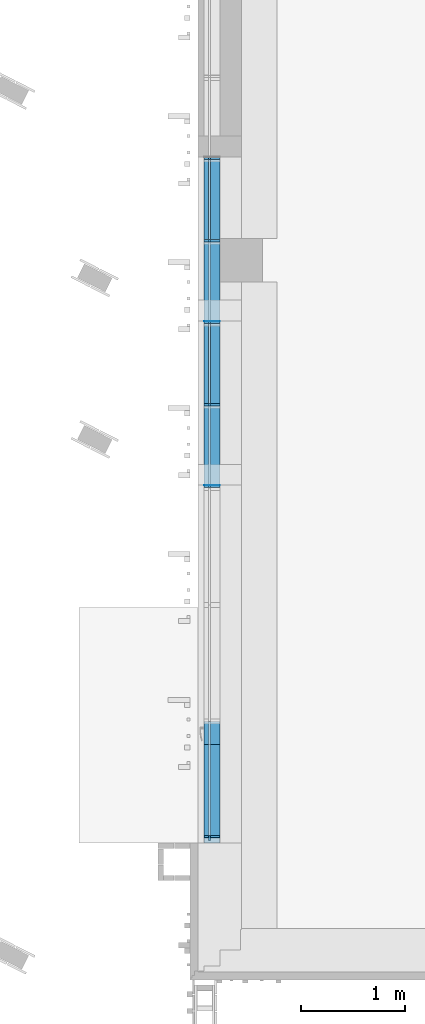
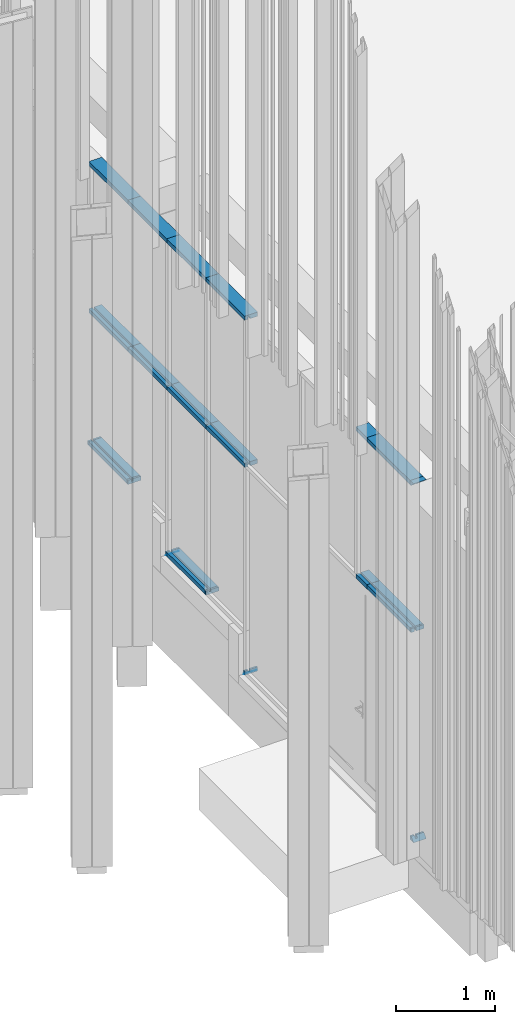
# One storey, part 59 of 390: 24 discrete accessories, 1 element without a shape of its own.
"""IFC2X3 building model written with IfcOpenShell, lengths in millimetres."""

import ifcopenshell
import ifcopenshell.guid

model = None  # the IFC model being written
_history = None  # IfcOwnerHistory: only IFC2X3 demands one
_inside = {}  # id of a spatial element -> (the spatial element, [elements in it])
_under = {}  # id of a project, library or spatial element -> (it, [spatial elements below it])
_declared = {}  # id of a project -> (the project, [libraries it declares])
_typed = {}  # id of a type object -> (the type object, [elements of that type])
_made_of = {}  # id of a material, layer set ... -> (it, [elements and type objects made of it])


def new_model(schema):
    """Start an empty IFC model of exactly this schema.

    Asked for "IFC4X3", IfcOpenShell would pick the latest addendum, in which some entities
    have other attributes; the version numbers below select the first issue.
    IFC2X3 requires an IfcOwnerHistory on every rooted entity: one is made here for all.
    """
    global model, _history
    if schema == "IFC4X3":
        model = ifcopenshell.file(schema_version=(4, 3, 0, 0))
    else:
        model = ifcopenshell.file(schema=schema)
    _inside.clear()
    _under.clear()
    _declared.clear()
    _typed.clear()
    _made_of.clear()
    _history = None
    if model.schema == "IFC2X3":
        org = make("IfcOrganization", Name="unknown")
        user = make(
            "IfcPersonAndOrganization",
            ThePerson=make("IfcPerson", FamilyName="unknown"),
            TheOrganization=org,
        )
        app = make(
            "IfcApplication",
            ApplicationDeveloper=org,
            Version="unknown",
            ApplicationFullName="unknown",
            ApplicationIdentifier="unknown",
        )
        _history = make(
            "IfcOwnerHistory",
            OwningUser=user,
            OwningApplication=app,
            ChangeAction="ADDED",
            CreationDate=0,
        )
    return model


def make(cls, **values):
    """One entity of the class cls with the attributes given. An attribute that is None is left unset."""
    return model.create_entity(
        cls, **{name: value for name, value in values.items() if value is not None}
    )


def entity(cls, *values):
    """Any entity or typed value of the class cls, its attributes in the order of the schema. None: left unset."""
    e = model.create_entity(cls)
    for i, value in enumerate(values):
        if value is not None:
            e[i] = value
    return e


def rooted(cls, **values):
    """An entity with a GlobalId (a new one), such as an element, a storey or a relation."""
    return make(cls, GlobalId=ifcopenshell.guid.new(), OwnerHistory=_history, **values)


def si_unit(unit_type, name, prefix=None):
    """IfcSIUnit, for example si_unit("LENGTHUNIT", "METRE", prefix="MILLI")."""
    return make("IfcSIUnit", UnitType=unit_type, Prefix=prefix, Name=name)


def converted_unit(unit_type, name, factor, base, dimensions=None, offset=None):
    """IfcConversionBasedUnit, such as the inch: factor (a typed value) times the base unit."""
    return make(
        "IfcConversionBasedUnit"
        if offset is None
        else "IfcConversionBasedUnitWithOffset",
        ConversionOffset=offset,
        Dimensions=None
        if dimensions is None
        else entity("IfcDimensionalExponents", *dimensions),
        UnitType=unit_type,
        Name=name,
        ConversionFactor=make(
            "IfcMeasureWithUnit", ValueComponent=factor, UnitComponent=base
        ),
    )


def derived_unit(unit_type, elements):
    """IfcDerivedUnit: a product of units, each with its exponent."""
    return make(
        "IfcDerivedUnit",
        Elements=[
            make("IfcDerivedUnitElement", Unit=unit, Exponent=power)
            for unit, power in elements
        ],
        UnitType=unit_type,
    )


def money_unit(currency):
    """IfcMonetaryUnit."""
    return make("IfcMonetaryUnit", Currency=currency)


def assignment(units):
    """IfcUnitAssignment: the units of a project."""
    return None if units is None else make("IfcUnitAssignment", Units=units)


def point(xyz):
    """IfcCartesianPoint."""
    return None if xyz is None else make("IfcCartesianPoint", Coordinates=xyz)


def direction(xyz):
    """IfcDirection."""
    return None if xyz is None else make("IfcDirection", DirectionRatios=xyz)


def frame(location, z_axis=None, x_axis=None):
    """IfcAxis2Placement3D, a coordinate frame: its origin and axes. An axis left out is left unset."""
    return make(
        "IfcAxis2Placement3D",
        Location=point(location),
        Axis=direction(z_axis),
        RefDirection=direction(x_axis),
    )


def origin_with_axes():
    """The frame at (0, 0, 0) with the z axis (0, 0, 1) and the x axis (1, 0, 0) written out."""
    return frame((0.0, 0.0, 0.0), z_axis=(0.0, 0.0, 1.0), x_axis=(1.0, 0.0, 0.0))


def place(relative_to, where):
    """IfcLocalPlacement: puts the frame where relative to a parent placement (None: the world)."""
    return make(
        "IfcLocalPlacement", PlacementRelTo=relative_to, RelativePlacement=where
    )


def context(
    kind, dimensions, precision=None, world=None, true_north=None, identifier=None
):
    """IfcGeometricRepresentationContext, for example the 3D "Model" context."""
    return make(
        "IfcGeometricRepresentationContext",
        ContextIdentifier=identifier,
        ContextType=kind,
        CoordinateSpaceDimension=dimensions,
        Precision=precision,
        WorldCoordinateSystem=world,
        TrueNorth=true_north,
    )


def subcontext(parent, identifier, kind, view, scale=None):
    """IfcGeometricRepresentationSubContext, for example "Body" below "Model"."""
    return make(
        "IfcGeometricRepresentationSubContext",
        ContextIdentifier=identifier,
        ContextType=kind,
        ParentContext=parent,
        TargetScale=scale,
        TargetView=view,
    )


def project(units=None, contexts=None):
    """IfcProject with its units and contexts."""
    return rooted(
        "IfcProject",
        Name="project",
        RepresentationContexts=contexts,
        UnitsInContext=assignment(units),
    )


def spatial(cls, under=None, at=None, **own):
    """A site, building, storey or space (cls), placed at a placement, below another one or the project."""
    s = rooted(cls, ObjectPlacement=at, **own)
    if under is not None:
        _under.setdefault(under.id(), (under, []))[1].append(s)
    return s


def polyline(points):
    """IfcPolyline through the points."""
    return make("IfcPolyline", Points=[point(p) for p in points])


def outline(outer, holes=None, kind="AREA"):
    """IfcArbitraryClosedProfileDef: a profile drawn as a closed curve; with holes, ...WithVoids."""
    if holes is None:
        return make("IfcArbitraryClosedProfileDef", ProfileType=kind, OuterCurve=outer)
    return make(
        "IfcArbitraryProfileDefWithVoids",
        ProfileType=kind,
        OuterCurve=outer,
        InnerCurves=holes,
    )


def extrude(swept, where, along, depth):
    """IfcExtrudedAreaSolid: the profile swept, set in the frame where, extruded along a direction by depth."""
    return make(
        "IfcExtrudedAreaSolid",
        SweptArea=swept,
        Position=where,
        ExtrudedDirection=direction(along),
        Depth=depth,
    )


def clip(a, b, op="DIFFERENCE"):
    """IfcBooleanClippingResult: the solid a cut by the half space b."""
    return make(
        "IfcBooleanClippingResult", Operator=op, FirstOperand=a, SecondOperand=b
    )


def halfspace(plane, agree):
    """IfcHalfSpaceSolid: all space on one side of the plane z = 0 of the frame plane."""
    return make(
        "IfcHalfSpaceSolid",
        BaseSurface=make("IfcPlane", Position=plane),
        AgreementFlag=agree,
    )


def shape(context_of_items, identifier, shape_type, items):
    """IfcShapeRepresentation: the items that make up one representation, for example the "Body"."""
    return make(
        "IfcShapeRepresentation",
        ContextOfItems=context_of_items,
        RepresentationIdentifier=identifier,
        RepresentationType=shape_type,
        Items=items,
    )


def material(Name=None, Category=None):
    """IfcMaterial."""
    return make("IfcMaterial", Name=Name, Category=Category)


def material_list(materials):
    """IfcMaterialList."""
    return make("IfcMaterialList", Materials=materials)


def made_of(thing, what):
    """Note that an element or type object is made of a material, layer set ...; save() writes the relation."""
    if what is not None:
        _made_of.setdefault(what.id(), (what, []))[1].append(thing)
    return thing


def type_object(cls, material=None, **own):
    """A type object (cls), such as IfcWallType, which elements share."""
    return made_of(rooted(cls, **own), material)


def element(
    cls,
    number,
    at=None,
    inside=None,
    cuts=None,
    type_object=None,
    material=None,
    context=None,
    identifier="Body",
    shape_type=None,
    held_by="IfcProductDefinitionShape",
    body=None,
    shapes=None,
    **own,
):
    """One element of the class cls, such as IfcWall. Its Tag is "e" and its number.

    at: its placement. inside: the storey or other place that contains it. cuts: it is an
    opening in that element (IfcRelVoidsElement). A single representation is given by context,
    identifier, shape_type and body (its items); several are given by shapes. held_by: the class
    of the entity that holds the representations. save() writes the other relations.
    """
    e = rooted(cls, Tag="e%d" % number, ObjectPlacement=at, **own)
    if body is not None:
        shapes = [shape(context, identifier, shape_type, body)]
    if shapes is not None:
        e.Representation = make(held_by, Representations=shapes)
    if inside is not None:
        _inside.setdefault(inside.id(), (inside, []))[1].append(e)
    if cuts is not None:
        rooted(
            "IfcRelVoidsElement", RelatingBuildingElement=cuts, RelatedOpeningElement=e
        )
    if type_object is not None:
        _typed.setdefault(type_object.id(), (type_object, []))[1].append(e)
    return made_of(e, material)


def aggregate(whole, parts):
    """IfcRelAggregates: a whole, such as a stair, and the parts it consists of."""
    return rooted("IfcRelAggregates", RelatingObject=whole, RelatedObjects=parts)


def save(model, path):
    """Write the relations noted so far, then the file.

    IfcRelAggregates (storeys below a building ...), IfcRelContainedInSpatialStructure (elements
    in a storey), IfcRelDefinesByType, IfcRelAssociatesMaterial and IfcRelDeclares: one each for
    every whole, place, type object, material and project.
    """
    for whole, parts in _under.values():
        aggregate(whole, parts)
    for where, things in _inside.values():
        rooted(
            "IfcRelContainedInSpatialStructure",
            RelatedElements=things,
            RelatingStructure=where,
        )
    for kind, things in _typed.values():
        rooted("IfcRelDefinesByType", RelatedObjects=things, RelatingType=kind)
    for what, things in _made_of.values():
        rooted("IfcRelAssociatesMaterial", RelatedObjects=things, RelatingMaterial=what)
    for by, libraries in _declared.values():
        rooted("IfcRelDeclares", RelatingContext=by, RelatedDefinitions=libraries)
    model.write(path)


model = new_model("IFC2X3")

# Units and contexts
model_context = context("Model", 3, precision=1e-05, world=origin_with_axes(), true_north=direction((0.0, 1.0)))
body_context = subcontext(model_context, "Body", "Model", "MODEL_VIEW")
ifc_project = project(units=[si_unit("LENGTHUNIT", "METRE", prefix="MILLI"), si_unit("AREAUNIT", "SQUARE_METRE"), si_unit("VOLUMEUNIT", "CUBIC_METRE"), converted_unit("PLANEANGLEUNIT", "DEGREE", entity("IfcPlaneAngleMeasure", 0.0174532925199), si_unit("PLANEANGLEUNIT", "RADIAN"), dimensions=[0, 0, 0, 0, 0, 0, 0]), si_unit("SOLIDANGLEUNIT", "STERADIAN"), money_unit("EUR"), converted_unit("TIMEUNIT", "Year", entity("IfcTimeMeasure", 31556926.0), si_unit("TIMEUNIT", "SECOND"), dimensions=[0, 0, 1, 0, 0, 0, 0]), si_unit("MASSUNIT", "GRAM", prefix="KILO"), si_unit("THERMODYNAMICTEMPERATUREUNIT", "DEGREE_CELSIUS"), si_unit("LUMINOUSINTENSITYUNIT", "LUMEN"), si_unit("ENERGYUNIT", "JOULE", prefix="MEGA"), derived_unit("THERMALCONDUCTANCEUNIT", [(si_unit("POWERUNIT", "WATT"), 1), (si_unit("LENGTHUNIT", "METRE"), -1), (si_unit("THERMODYNAMICTEMPERATUREUNIT", "KELVIN"), -1)]), derived_unit("SPECIFICHEATCAPACITYUNIT", [(si_unit("ENERGYUNIT", "JOULE"), 1), (si_unit("MASSUNIT", "GRAM", prefix="KILO"), -1), (si_unit("THERMODYNAMICTEMPERATUREUNIT", "KELVIN"), -1)]), derived_unit("MASSDENSITYUNIT", [(si_unit("MASSUNIT", "GRAM", prefix="KILO"), 1), (si_unit("VOLUMEUNIT", "CUBIC_METRE"), -1)])], contexts=[model_context])

# Site, building, storey
site_placement = place(None, origin_with_axes())
site = spatial("IfcSite", under=ifc_project, at=site_placement, Name="Site", CompositionType="ELEMENT")
building_placement = place(site_placement, origin_with_axes())
building = spatial("IfcBuilding", under=site, at=building_placement, Name="Building", CompositionType="ELEMENT")
storey_placement = place(building_placement, origin_with_axes())
storey = spatial("IfcBuildingStorey", under=building, at=storey_placement, Name="1 korrus", CompositionType="ELEMENT", Elevation=0.0)

# Curtain wall, discrete accessories
curtain_wall_type = type_object("IfcCurtainWallType", Name="KLF-14", PredefinedType="NOTDEFINED")
curtain_wall_placement = place(storey_placement, frame((122599.999993, 59672.5295083, -0.000201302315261), z_axis=(0.0, 0.0, 1.0), x_axis=(1.0, 0.0, 0.0)))
curtain_wall = element("IfcCurtainWall", 1, at=curtain_wall_placement, inside=storey, type_object=curtain_wall_type, Name="Klaasfassaad")
ifc_material = material(Name="Aluminium MUST")
ifc_material_list_1 = material_list([ifc_material, ifc_material, ifc_material])
discrete_accessory_type = type_object("IfcDiscreteAccessoryType", Name="50 x 150")
discrete_accessory_1_placement = place(curtain_wall_placement, frame((1.2465193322e-06, -7324.5295103, 4424.99986231), z_axis=(1.7016819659e-10, -1.0, 0.0), x_axis=(0.0, 0.0, -1.0)))
discrete_accessory_1 = element("IfcDiscreteAccessory", 2, at=discrete_accessory_1_placement, type_object=discrete_accessory_type, material=ifc_material_list_1, Name="KLF-14 profiil", context=body_context, shape_type="SweptSolid", body=[
    extrude(outline(polyline([(-9.99999986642, 25.0), (-9.99999986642, 0.0), (10.0000001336, 0.0), (10.0000001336, 25.0), (-9.99999986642, 25.0)])), frame((0.0, 0.0, -1.71240799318e-09), z_axis=(0.0, 0.0, 1.0), x_axis=(0.0, -1.0, 0.0)), (0.0, 0.0, 1.0), 785.000000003),
    extrude(outline(polyline([(-99.9999998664, 50.0), (-99.9999998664, 0.0), (-9.99999986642, 0.0), (-9.99999986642, 50.0), (-99.9999998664, 50.0)])), frame((0.0, 0.0, 1.69819713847e-09), z_axis=(0.0, 0.0, 1.0), x_axis=(0.0, -1.0, 0.0)), (0.0, 0.0, 1.0), 785.000000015),
    extrude(outline(polyline([(50.0000001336, 0.0), (50.0000001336, 50.0), (10.0000001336, 50.0), (10.0000001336, 0.0), (50.0000001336, 0.0)])), frame((0.0, 0.0, -8.51940740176e-09), z_axis=(0.0, 0.0, 1.0), x_axis=(0.0, -1.0, 0.0)), (0.0, 0.0, 1.0), 785.000000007),
])
discrete_accessory_2_placement = place(curtain_wall_placement, frame((1.11207043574e-06, -6534.5295103, 4424.99986231), z_axis=(1.70188476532e-10, -1.0, 0.0), x_axis=(0.0, 0.0, -1.0)))
discrete_accessory_2 = element("IfcDiscreteAccessory", 3, at=discrete_accessory_2_placement, type_object=discrete_accessory_type, material=ifc_material_list_1, Name="KLF-14 profiil", context=body_context, shape_type="SweptSolid", body=[
    extrude(outline(polyline([(-9.99999986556, 25.0), (-9.99999986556, 0.0), (10.0000001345, 0.0), (10.0000001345, 25.0), (-9.99999986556, 25.0)])), frame((0.0, 0.0, -1.70530256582e-09), z_axis=(0.0, 0.0, 1.0), x_axis=(0.0, -1.0, 0.0)), (0.0, 0.0, 1.0), 790.000000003),
    extrude(outline(polyline([(-99.9999998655, 50.0), (-99.9999998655, 0.0), (-9.99999986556, 0.0), (-9.99999986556, 50.0), (-99.9999998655, 50.0)])), frame((0.0, 0.0, 1.69109171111e-09), z_axis=(0.0, 0.0, 1.0), x_axis=(0.0, -1.0, 0.0)), (0.0, 0.0, 1.0), 790.000000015),
    extrude(outline(polyline([(50.0000001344, 0.0), (50.0000001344, 50.0), (10.0000001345, 50.0), (10.0000001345, 0.0), (50.0000001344, 0.0)])), frame((0.0, 0.0, -8.51230197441e-09), z_axis=(0.0, 0.0, 1.0), x_axis=(0.0, -1.0, 0.0)), (0.0, 0.0, 1.0), 790.000000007),
])
discrete_accessory_3_placement = place(curtain_wall_placement, frame((1.51455026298e-06, -8899.5295103, 4424.99986231), z_axis=(1.70186299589e-10, -1.0, 0.0), x_axis=(0.0, 0.0, -1.0)))
discrete_accessory_3 = element("IfcDiscreteAccessory", 4, at=discrete_accessory_3_placement, type_object=discrete_accessory_type, material=ifc_material_list_1, Name="KLF-14 profiil", context=body_context, shape_type="SweptSolid", body=[
    extrude(outline(polyline([(-9.99999986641, 25.0), (-9.99999986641, 0.0), (10.0000001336, 0.0), (10.0000001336, 25.0), (-9.99999986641, 25.0)])), frame((0.0, 0.0, -1.69109171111e-09), z_axis=(0.0, 0.0, 1.0), x_axis=(0.0, -1.0, 0.0)), (0.0, 0.0, 1.0), 785.000000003),
    extrude(outline(polyline([(-99.9999998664, 50.0), (-99.9999998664, 0.0), (-9.99999986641, 0.0), (-9.99999986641, 50.0), (-99.9999998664, 50.0)])), frame((0.0, 0.0, 1.70530256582e-09), z_axis=(0.0, 0.0, 1.0), x_axis=(0.0, -1.0, 0.0)), (0.0, 0.0, 1.0), 785.000000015),
    extrude(outline(polyline([(50.0000001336, 0.0), (50.0000001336, 50.0), (10.0000001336, 50.0), (10.0000001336, 0.0), (50.0000001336, 0.0)])), frame((0.0, 0.0, -8.49809111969e-09), z_axis=(0.0, 0.0, 1.0), x_axis=(0.0, -1.0, 0.0)), (0.0, 0.0, 1.0), 785.000000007),
])
discrete_accessory_4_placement = place(curtain_wall_placement, frame((1.38010136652e-06, -8109.5295103, 4424.99986231), z_axis=(1.70188476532e-10, -1.0, 0.0), x_axis=(0.0, 0.0, -1.0)))
discrete_accessory_4 = element("IfcDiscreteAccessory", 5, at=discrete_accessory_4_placement, type_object=discrete_accessory_type, material=ifc_material_list_1, Name="KLF-14 profiil", context=body_context, shape_type="SweptSolid", body=[
    extrude(outline(polyline([(-9.99999986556, 25.0), (-9.99999986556, 0.0), (10.0000001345, 0.0), (10.0000001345, 25.0), (-9.99999986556, 25.0)])), frame((0.0, 0.0, -1.70530256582e-09), z_axis=(0.0, 0.0, 1.0), x_axis=(0.0, -1.0, 0.0)), (0.0, 0.0, 1.0), 790.000000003),
    extrude(outline(polyline([(-99.9999998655, 50.0), (-99.9999998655, 0.0), (-9.99999986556, 0.0), (-9.99999986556, 50.0), (-99.9999998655, 50.0)])), frame((0.0, 0.0, 1.69109171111e-09), z_axis=(0.0, 0.0, 1.0), x_axis=(0.0, -1.0, 0.0)), (0.0, 0.0, 1.0), 790.000000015),
    extrude(outline(polyline([(50.0000001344, 0.0), (50.0000001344, 50.0), (10.0000001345, 50.0), (10.0000001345, 0.0), (50.0000001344, 0.0)])), frame((0.0, 0.0, -8.51230197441e-09), z_axis=(0.0, 0.0, 1.0), x_axis=(0.0, -1.0, 0.0)), (0.0, 0.0, 1.0), 790.000000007),
])
discrete_accessory_5_placement = place(curtain_wall_placement, frame((1.5106849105e-06, -8876.81727382, 510.000201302), z_axis=(-1.70188487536e-10, 1.0, 0.0), x_axis=(0.0, 0.0, 1.0)))
discrete_accessory_5 = element("IfcDiscreteAccessory", 6, at=discrete_accessory_5_placement, type_object=discrete_accessory_type, material=ifc_material_list_1, Name="KLF-14 profiil", context=body_context, shape_type="SweptSolid", body=[
    extrude(outline(polyline([(10.0000001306, -25.0), (10.0000001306, 0.0), (-9.99999986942, 0.0), (-9.99999986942, -25.0), (10.0000001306, -25.0)])), frame((0.0, 0.0, -7.69751693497e-05), z_axis=(0.0, 0.0, 1.0), x_axis=(0.0, 1.0, 0.0)), (0.0, 0.0, 1.0), 767.287840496),
    extrude(outline(polyline([(100.000000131, -50.0), (100.000000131, 0.0), (10.0000001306, 0.0), (10.0000001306, -50.0), (100.000000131, -50.0)])), frame((0.0, 0.0, -7.69904957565e-05), z_axis=(0.0, 0.0, 1.0), x_axis=(0.0, 1.0, 0.0)), (0.0, 0.0, 1.0), 767.287840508),
    extrude(outline(polyline([(-49.9999998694, 0.0), (-49.9999998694, -50.0), (-9.99999986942, -50.0), (-9.99999986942, 0.0), (-49.9999998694, 0.0)])), frame((0.0, 0.0, -7.69717729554e-05), z_axis=(0.0, 0.0, 1.0), x_axis=(0.0, 1.0, 0.0)), (0.0, 0.0, 1.0), 767.287840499),
])
ifc_material_list_2 = material_list([ifc_material, ifc_material])
discrete_accessory_6_placement = place(curtain_wall_placement, frame((1.64814650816e-06, -9684.5295103, 2585.00012874), z_axis=(-1.70186299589e-10, 1.0, 0.0), x_axis=(0.0, 0.0, 1.0)))
discrete_accessory_6 = element("IfcDiscreteAccessory", 7, at=discrete_accessory_6_placement, type_object=discrete_accessory_type, material=ifc_material_list_2, Name="KLF-14 profiil", context=body_context, shape_type="SweptSolid", body=[
    extrude(outline(polyline([(100.000000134, -25.0), (100.000000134, 25.0), (10.0000001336, 25.0), (10.0000001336, -25.0), (100.000000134, -25.0)])), frame((0.0, 0.0, -1.70174985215e-08), z_axis=(0.0, 0.0, 1.0), x_axis=(0.0, 1.0, 0.0)), (0.0, 0.0, 1.0), 785.000000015),
    extrude(outline(polyline([(-49.9999998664, 25.0), (-49.9999998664, -25.0), (-9.99999986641, -25.0), (-9.99999986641, 25.0), (-49.9999998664, 25.0)])), frame((0.0, 0.0, 1.69109171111e-09), z_axis=(0.0, 0.0, 1.0), x_axis=(0.0, 1.0, 0.0)), (0.0, 0.0, 1.0), 785.000000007),
])
discrete_accessory_7_placement = place(curtain_wall_placement, frame((1.51455026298e-06, -8899.5295103, 2585.00012874), z_axis=(-1.70188476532e-10, 1.0, 0.0), x_axis=(0.0, 0.0, 1.0)))
discrete_accessory_7 = element("IfcDiscreteAccessory", 8, at=discrete_accessory_7_placement, type_object=discrete_accessory_type, material=ifc_material_list_2, Name="KLF-14 profiil", context=body_context, shape_type="SweptSolid", body=[
    extrude(outline(polyline([(100.000000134, -25.0), (100.000000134, 25.0), (10.0000001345, 25.0), (10.0000001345, -25.0), (100.000000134, -25.0)])), frame((0.0, 0.0, -1.70174985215e-08), z_axis=(0.0, 0.0, 1.0), x_axis=(0.0, 1.0, 0.0)), (0.0, 0.0, 1.0), 790.000000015),
    extrude(outline(polyline([(-49.9999998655, 25.0), (-49.9999998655, -25.0), (-9.99999986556, -25.0), (-9.99999986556, 25.0), (-49.9999998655, 25.0)])), frame((0.0, 0.0, 1.70530256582e-09), z_axis=(0.0, 0.0, 1.0), x_axis=(0.0, 1.0, 0.0)), (0.0, 0.0, 1.0), 790.000000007),
])
discrete_accessory_8_placement = place(curtain_wall_placement, frame((1.38010136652e-06, -8109.5295103, 2585.00012874), z_axis=(-1.7016819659e-10, 1.0, 0.0), x_axis=(0.0, 0.0, 1.0)))
discrete_accessory_8 = element("IfcDiscreteAccessory", 9, at=discrete_accessory_8_placement, type_object=discrete_accessory_type, material=ifc_material_list_2, Name="KLF-14 profiil", context=body_context, shape_type="SweptSolid", body=[
    extrude(outline(polyline([(100.000000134, -25.0), (100.000000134, 25.0), (10.0000001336, 25.0), (10.0000001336, -25.0), (100.000000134, -25.0)])), frame((0.0, 0.0, -1.70174985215e-08), z_axis=(0.0, 0.0, 1.0), x_axis=(0.0, 1.0, 0.0)), (0.0, 0.0, 1.0), 785.000000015),
    extrude(outline(polyline([(-49.9999998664, 25.0), (-49.9999998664, -25.0), (-9.99999986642, -25.0), (-9.99999986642, 25.0), (-49.9999998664, 25.0)])), frame((0.0, 0.0, 1.71240799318e-09), z_axis=(0.0, 0.0, 1.0), x_axis=(0.0, 1.0, 0.0)), (0.0, 0.0, 1.0), 785.000000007),
])
discrete_accessory_9_placement = place(curtain_wall_placement, frame((1.2465193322e-06, -7324.5295103, 2585.00012874), z_axis=(-1.70188476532e-10, 1.0, 0.0), x_axis=(0.0, 0.0, 1.0)))
discrete_accessory_9 = element("IfcDiscreteAccessory", 10, at=discrete_accessory_9_placement, type_object=discrete_accessory_type, material=ifc_material_list_2, Name="KLF-14 profiil", context=body_context, shape_type="SweptSolid", body=[
    extrude(outline(polyline([(100.000000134, -25.0), (100.000000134, 25.0), (10.0000001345, 25.0), (10.0000001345, -25.0), (100.000000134, -25.0)])), frame((0.0, 0.0, -1.70174985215e-08), z_axis=(0.0, 0.0, 1.0), x_axis=(0.0, 1.0, 0.0)), (0.0, 0.0, 1.0), 790.000000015),
    extrude(outline(polyline([(-49.9999998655, 25.0), (-49.9999998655, -25.0), (-9.99999986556, -25.0), (-9.99999986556, 25.0), (-49.9999998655, 25.0)])), frame((0.0, 0.0, 1.70530256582e-09), z_axis=(0.0, 0.0, 1.0), x_axis=(0.0, 1.0, 0.0)), (0.0, 0.0, 1.0), 790.000000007),
])
discrete_accessory_10_placement = place(curtain_wall_placement, frame((1.24265397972e-06, -7301.81729221, 920.000173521), z_axis=(-1.70188483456e-10, 1.0, 0.0), x_axis=(0.0, 0.0, 1.0)))
discrete_accessory_10 = element("IfcDiscreteAccessory", 11, at=discrete_accessory_10_placement, type_object=discrete_accessory_type, material=ifc_material_list_1, Name="KLF-14 profiil", context=body_context, shape_type="SweptSolid", body=[
    extrude(outline(polyline([(10.0000001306, -25.0), (10.0000001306, 0.0), (-9.99999986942, 0.0), (-9.99999986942, -25.0), (10.0000001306, -25.0)])), frame((0.0, 0.0, -3.0219617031e-05), z_axis=(0.0, 0.0, 1.0), x_axis=(0.0, 1.0, 0.0)), (0.0, 0.0, 1.0), 767.287812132),
    extrude(outline(polyline([(100.000000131, -50.0), (100.000000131, 0.0), (10.0000001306, 0.0), (10.0000001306, -50.0), (100.000000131, -50.0)])), frame((0.0, 0.0, -3.02349434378e-05), z_axis=(0.0, 0.0, 1.0), x_axis=(0.0, 1.0, 0.0)), (0.0, 0.0, 1.0), 767.287812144),
    extrude(outline(polyline([(-49.9999998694, 0.0), (-49.9999998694, -50.0), (-9.99999986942, -50.0), (-9.99999986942, 0.0), (-49.9999998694, 0.0)])), frame((0.0, 0.0, -3.02162206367e-05), z_axis=(0.0, 0.0, 1.0), x_axis=(0.0, 1.0, 0.0)), (0.0, 0.0, 1.0), 767.287812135),
])
discrete_accessory_11_placement = place(curtain_wall_placement, frame((1.11207043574e-06, -6534.5295103, 920.000173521), z_axis=(-1.70011504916e-10, 1.0, 0.0), x_axis=(0.0, 0.0, 1.0)))
discrete_accessory_11 = element("IfcDiscreteAccessory", 12, at=discrete_accessory_11_placement, type_object=discrete_accessory_type, material=ifc_material_list_1, Name="KLF-14 profiil", context=body_context, shape_type="SweptSolid", body=[
    extrude(outline(polyline([(10.0000000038, -25.0), (10.0000000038, 0.0), (-9.99999999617, 0.0), (-9.99999999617, -25.0), (10.0000000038, -25.0)])), frame((0.0, 0.0, -1.7266188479e-09), z_axis=(0.0, 0.0, 1.0), x_axis=(0.0, 1.0, 0.0)), (0.0, 0.0, 1.0), 22.5689036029),
    extrude(outline(polyline([(100.000000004, -50.0), (100.000000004, 0.0), (10.0000000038, 0.0), (10.0000000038, -50.0), (100.000000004, -50.0)])), frame((0.0, 0.0, -1.70174985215e-08), z_axis=(0.0, 0.0, 1.0), x_axis=(0.0, 1.0, 0.0)), (0.0, 0.0, 1.0), 22.5689036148),
    extrude(outline(polyline([(-49.9999999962, 0.0), (-49.9999999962, -50.0), (-9.99999999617, -50.0), (-9.99999999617, 0.0), (-49.9999999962, 0.0)])), frame((0.0, 0.0, 1.68398628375e-09), z_axis=(0.0, 0.0, 1.0), x_axis=(0.0, 1.0, 0.0)), (0.0, 0.0, 1.0), 22.5689036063),
])
discrete_accessory_12_placement = place(curtain_wall_placement, frame((1.2465193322e-06, -7324.5295103, 920.000200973), z_axis=(-1.70188242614e-10, 0.999999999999, -1.20871703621e-06), x_axis=(0.0, 1.20871703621e-06, 0.999999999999)))
discrete_accessory_12 = element("IfcDiscreteAccessory", 13, at=discrete_accessory_12_placement, type_object=discrete_accessory_type, material=ifc_material_list_1, Name="KLF-14 profiil", context=body_context, shape_type="SweptSolid", body=[
    extrude(outline(polyline([(10.0000000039, -25.0000274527), (10.0000000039, -2.74526814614e-05), (-9.99999999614, -2.74526814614e-05), (-9.99999999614, -25.0000274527), (10.0000000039, -25.0000274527)])), frame((0.0, 0.0, -6.06827583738e-05), z_axis=(0.0, 0.0, 1.0), x_axis=(0.0, 1.0, 0.0)), (0.0, 0.0, 1.0), 22.712308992),
    extrude(outline(polyline([(100.000000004, -50.0000274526), (100.000000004, -2.74526814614e-05), (10.0000000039, -2.74526814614e-05), (10.0000000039, -50.0000274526), (100.000000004, -50.0000274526)])), frame((0.0, 0.0, -9.09160107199e-05), z_axis=(0.0, 0.0, 1.0), x_axis=(0.0, 1.0, 0.0)), (0.0, 0.0, 1.0), 22.7123392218),
    extrude(outline(polyline([(-49.9999999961, -2.74526814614e-05), (-49.9999999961, -50.0000274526), (-9.99999999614, -50.0000274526), (-9.99999999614, -2.74526814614e-05), (-49.9999999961, -2.74526814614e-05)])), frame((0.0, 0.0, -9.08972879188e-05), z_axis=(0.0, 0.0, 1.0), x_axis=(0.0, 1.0, 0.0)), (0.0, 0.0, 1.0), 22.7123392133),
])
discrete_accessory_13_placement = place(curtain_wall_placement, frame((1.37626443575e-06, -8086.96097682, 510.000201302), z_axis=(-1.70515498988e-10, 0.999999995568, 9.41496394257e-05), x_axis=(0.0, -9.41496394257e-05, 0.999999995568)))
discrete_accessory_13 = element("IfcDiscreteAccessory", 14, at=discrete_accessory_13_placement, type_object=discrete_accessory_type, material=ifc_material_list_1, Name="KLF-14 profiil", context=body_context, shape_type="Clipping", body=[
    clip(extrude(outline(polyline([(-10.0, -2.00271538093), (10.0, -2.00271538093), (10.0000000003, 0.0), (-9.99999999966, 0.0), (-10.0, -2.00271538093)])), frame((0.0, 0.0, -0.0023537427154), z_axis=(0.0, 0.0, 1.0), x_axis=(0.0, 1.0, 0.0)), (0.0, 0.0, 1.0), 2.00252683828), halfspace(frame((1.0000865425, 1.70544417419e-10, 1.00018070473), z_axis=(-0.707073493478, -1.20577001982e-10, -0.707140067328), x_axis=(0.0, 1.0, -1.70513604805e-10)), True)),
    clip(extrude(outline(polyline([(10.0, -2.00271538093), (100.0, -2.00271538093), (100.0, 0.0), (10.0000000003, 0.0), (10.0, -2.00271538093)])), frame((0.0, 0.0, -0.00235375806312), z_axis=(0.0, 0.0, 1.0), x_axis=(0.0, 1.0, 0.0)), (0.0, 0.0, 1.0), 2.00252685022), halfspace(frame((1.0000865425, 1.70545034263e-10, 1.00018070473), z_axis=(-0.707073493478, -1.20577438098e-10, -0.707140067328), x_axis=(0.0, 1.0, -1.70514221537e-10)), True)),
    clip(extrude(outline(polyline([(-10.0, -2.00271538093), (-9.99999999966, 0.0), (-49.9999999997, 0.0), (-50.0, -2.00271538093), (-10.0, -2.00271538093)])), frame((0.0, 0.0, -0.00235373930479), z_axis=(0.0, 0.0, 1.0), x_axis=(0.0, 1.0, 0.0)), (0.0, 0.0, 1.0), 2.00252684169), halfspace(frame((1.0000865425, 1.70544414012e-10, 1.00018070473), z_axis=(-0.707073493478, -1.20576999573e-10, -0.707140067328), x_axis=(0.0, 1.0, -1.70513601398e-10)), True)),
])
discrete_accessory_14_placement = place(curtain_wall_placement, frame((1.38010136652e-06, -8109.5295103, 510.000201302), z_axis=(-1.70012410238e-10, 1.0, 0.0), x_axis=(0.0, 0.0, 1.0)))
discrete_accessory_14 = element("IfcDiscreteAccessory", 15, at=discrete_accessory_14_placement, type_object=discrete_accessory_type, material=ifc_material_list_1, Name="KLF-14 profiil", context=body_context, shape_type="SweptSolid", body=[
    extrude(outline(polyline([(10.0000000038, -25.0), (10.0000000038, 0.0), (-9.99999999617, 0.0), (-9.99999999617, -25.0), (10.0000000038, -25.0)])), frame((0.0, 0.0, -1.71240799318e-09), z_axis=(0.0, 0.0, 1.0), x_axis=(0.0, 1.0, 0.0)), (0.0, 0.0, 1.0), 22.5708872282),
    extrude(outline(polyline([(100.000000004, -50.0), (100.000000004, 0.0), (10.0000000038, 0.0), (10.0000000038, -50.0), (100.000000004, -50.0)])), frame((0.0, 0.0, -1.70174985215e-08), z_axis=(0.0, 0.0, 1.0), x_axis=(0.0, 1.0, 0.0)), (0.0, 0.0, 1.0), 22.5708872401),
    extrude(outline(polyline([(-49.9999999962, 0.0), (-49.9999999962, -50.0), (-9.99999999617, -50.0), (-9.99999999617, 0.0), (-49.9999999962, 0.0)])), frame((0.0, 0.0, 1.68398628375e-09), z_axis=(0.0, 0.0, 1.0), x_axis=(0.0, 1.0, 0.0)), (0.0, 0.0, 1.0), 22.5708872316),
])
discrete_accessory_15_placement = place(curtain_wall_placement, frame((1.51455026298e-06, -8899.5295103, 510.000131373), z_axis=(-1.701881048e-10, 0.999999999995, 3.07893915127e-06), x_axis=(0.0, -3.07893915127e-06, 0.999999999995)))
discrete_accessory_15 = element("IfcDiscreteAccessory", 16, at=discrete_accessory_15_placement, type_object=discrete_accessory_type, material=ifc_material_list_1, Name="KLF-14 profiil", context=body_context, shape_type="SweptSolid", body=[
    extrude(outline(polyline([(10.0000000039, -24.9999300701), (10.0000000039, 6.9929831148e-05), (-9.99999999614, 6.9929831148e-05), (-9.99999999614, -24.9999300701), (10.0000000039, -24.9999300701)])), frame((0.0, 0.0, -8.5465273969e-05), z_axis=(0.0, 0.0, 1.0), x_axis=(0.0, 1.0, 0.0)), (0.0, 0.0, 1.0), 22.7124758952),
    extrude(outline(polyline([(100.000000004, -49.9999300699), (100.000000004, 6.99298310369e-05), (10.0000000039, 6.9929831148e-05), (10.0000000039, -49.9999300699), (100.000000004, -49.9999300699)])), frame((0.0, 0.0, -8.54806003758e-05), z_axis=(0.0, 0.0, 1.0), x_axis=(0.0, 1.0, 0.0)), (0.0, 0.0, 1.0), 22.7125528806),
    extrude(outline(polyline([(-49.9999999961, 6.9929831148e-05), (-49.9999999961, -49.9999300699), (-9.99999999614, -49.9999300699), (-9.99999999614, 6.9929831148e-05), (-49.9999999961, 6.9929831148e-05)])), frame((0.0, 0.0, -8.54618775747e-05), z_axis=(0.0, 0.0, 1.0), x_axis=(0.0, 1.0, 0.0)), (0.0, 0.0, 1.0), 22.712552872),
])
discrete_accessory_16_placement = place(curtain_wall_placement, frame((1.64814650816e-06, -9684.5295103, 0.0), z_axis=(-1.70011339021e-10, 1.0, 0.0), x_axis=(0.0, 0.0, 1.0)))
discrete_accessory_16 = element("IfcDiscreteAccessory", 17, at=discrete_accessory_16_placement, type_object=discrete_accessory_type, material=ifc_material_list_1, Name="KLF-14 profiil", context=body_context, shape_type="SweptSolid", body=[
    extrude(outline(polyline([(10.0000000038, -25.0), (10.0000000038, 0.0), (-9.99999999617, 0.0), (-9.99999999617, -25.0), (10.0000000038, -25.0)])), frame((0.0, 0.0, -1.7266188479e-09), z_axis=(0.0, 0.0, 1.0), x_axis=(0.0, 1.0, 0.0)), (0.0, 0.0, 1.0), 22.5686756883),
    extrude(outline(polyline([(100.000000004, -50.0), (100.000000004, 0.0), (10.0000000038, 0.0), (10.0000000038, -50.0), (100.000000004, -50.0)])), frame((0.0, 0.0, -1.70174985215e-08), z_axis=(0.0, 0.0, 1.0), x_axis=(0.0, 1.0, 0.0)), (0.0, 0.0, 1.0), 22.5686757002),
    extrude(outline(polyline([(-49.9999999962, 0.0), (-49.9999999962, -50.0), (-9.99999999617, -50.0), (-9.99999999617, 0.0), (-49.9999999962, 0.0)])), frame((0.0, 0.0, 1.68398628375e-09), z_axis=(0.0, 0.0, 1.0), x_axis=(0.0, 1.0, 0.0)), (0.0, 0.0, 1.0), 22.5686756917),
])
discrete_accessory_17_placement = place(curtain_wall_placement, frame((2.2281199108e-06, -13092.5294356, 0.0), z_axis=(-1.70165820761e-10, 1.0, 0.0), x_axis=(0.0, 0.0, 1.0)))
discrete_accessory_17 = element("IfcDiscreteAccessory", 18, at=discrete_accessory_17_placement, type_object=discrete_accessory_type, material=ifc_material_list_1, Name="KLF-14 profiil", context=body_context, shape_type="Clipping", body=[
    clip(extrude(outline(polyline([(10.0000000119, -25.0), (10.0000000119, 0.0), (-9.99999998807, 0.0), (-9.99999998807, -25.0), (10.0000000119, -25.0)])), frame((0.0, 0.0, -1.69819713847e-09), z_axis=(0.0, 0.0, 1.0), x_axis=(0.0, 1.0, 0.0)), (0.0, 0.0, 1.0), 70.1499155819), halfspace(frame((0.0, 0.0, 0.0), z_axis=(-0.707106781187, 1.20331907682e-10, 0.707106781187), x_axis=(0.0, -1.0, 1.70175015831e-10)), True)),
    clip(extrude(outline(polyline([(100.000000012, -50.0), (100.000000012, 0.0), (10.0000000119, 0.0), (10.0000000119, -50.0), (100.000000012, -50.0)])), frame((0.0, 0.0, -1.70174985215e-08), z_axis=(0.0, 0.0, 1.0), x_axis=(0.0, 1.0, 0.0)), (0.0, 0.0, 1.0), 70.1499155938), halfspace(frame((0.0, 0.0, 0.0), z_axis=(-0.707106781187, 1.20359847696e-10, 0.707106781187), x_axis=(0.0, -1.0, 1.70214528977e-10)), True)),
    clip(extrude(outline(polyline([(-49.9999999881, 0.0), (-49.9999999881, -50.0), (-9.99999998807, -50.0), (-9.99999998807, 0.0), (-49.9999999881, 0.0)])), frame((0.0, 0.0, 1.71240799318e-09), z_axis=(0.0, 0.0, 1.0), x_axis=(0.0, 1.0, 0.0)), (0.0, 0.0, 1.0), 70.1499155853), halfspace(frame((0.0, 0.0, 0.0), z_axis=(-0.707106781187, 1.20331907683e-10, 0.707106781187), x_axis=(0.0, -1.0, 1.70175015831e-10)), True)),
])
discrete_accessory_18_placement = place(curtain_wall_placement, frame((2.2281199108e-06, -13092.5294356, 2585.00012874), z_axis=(-1.70165820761e-10, 1.0, 0.0), x_axis=(0.0, 0.0, 1.0)))
discrete_accessory_18 = element("IfcDiscreteAccessory", 19, at=discrete_accessory_18_placement, type_object=discrete_accessory_type, material=ifc_material_list_2, Name="KLF-14 profiil", context=body_context, shape_type="SweptSolid", body=[
    extrude(outline(polyline([(100.000000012, -25.0), (100.000000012, 25.0), (10.0000000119, 25.0), (10.0000000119, -25.0), (100.000000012, -25.0)])), frame((0.0, 0.0, 49.999999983), z_axis=(0.0, 0.0, 1.0), x_axis=(0.0, 1.0, 0.0)), (0.0, 0.0, 1.0), 20.1499155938),
    extrude(outline(polyline([(-49.9999999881, 25.0), (-49.9999999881, -25.0), (-9.99999998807, -25.0), (-9.99999998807, 25.0), (-49.9999999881, 25.0)])), frame((0.0, 0.0, 50.0000000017), z_axis=(0.0, 0.0, 1.0), x_axis=(0.0, 1.0, 0.0)), (0.0, 0.0, 1.0), 20.1499155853),
])
discrete_accessory_19_placement = place(curtain_wall_placement, frame((2.0676367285e-06, -12149.5295103, 2585.00012874), z_axis=(-1.70196023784e-10, 1.0, 0.0), x_axis=(0.0, 0.0, 1.0)))
discrete_accessory_19 = element("IfcDiscreteAccessory", 20, at=discrete_accessory_19_placement, type_object=discrete_accessory_type, material=ifc_material_list_2, Name="KLF-14 profiil", context=body_context, shape_type="SweptSolid", body=[
    extrude(outline(polyline([(100.000000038, -25.0), (100.000000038, 25.0), (10.0000000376, 25.0), (10.0000000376, -25.0), (100.000000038, -25.0)])), frame((0.0, 0.0, -1.70174985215e-08), z_axis=(0.0, 0.0, 1.0), x_axis=(0.0, 1.0, 0.0)), (0.0, 0.0, 1.0), 221.100014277),
    extrude(outline(polyline([(-49.9999999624, 25.0), (-49.9999999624, -25.0), (-9.99999996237, -25.0), (-9.99999996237, 25.0), (-49.9999999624, 25.0)])), frame((0.0, 0.0, 1.70530256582e-09), z_axis=(0.0, 0.0, 1.0), x_axis=(0.0, 1.0, 0.0)), (0.0, 0.0, 1.0), 221.100014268),
])
discrete_accessory_20_placement = place(curtain_wall_placement, frame((2.03000638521e-06, -11928.429496, 4424.99986231), z_axis=(1.70196023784e-10, -1.0, 0.0), x_axis=(0.0, 0.0, -1.0)))
discrete_accessory_20 = element("IfcDiscreteAccessory", 21, at=discrete_accessory_20_placement, type_object=discrete_accessory_type, material=ifc_material_list_1, Name="KLF-14 profiil", context=body_context, shape_type="SweptSolid", body=[
    extrude(outline(polyline([(-9.99999996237, 25.0), (-9.99999996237, 0.0), (10.0000000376, 0.0), (10.0000000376, 25.0), (-9.99999996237, 25.0)])), frame((0.0, 0.0, -1.70530256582e-09), z_axis=(0.0, 0.0, 1.0), x_axis=(0.0, -1.0, 0.0)), (0.0, 0.0, 1.0), 221.100014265),
    extrude(outline(polyline([(-99.9999999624, 50.0), (-99.9999999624, 0.0), (-9.99999996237, 0.0), (-9.99999996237, 50.0), (-99.9999999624, 50.0)])), frame((0.0, 0.0, 1.70530256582e-09), z_axis=(0.0, 0.0, 1.0), x_axis=(0.0, -1.0, 0.0)), (0.0, 0.0, 1.0), 221.100014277),
    extrude(outline(polyline([(50.0000000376, 0.0), (50.0000000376, 50.0), (10.0000000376, 50.0), (10.0000000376, 0.0), (50.0000000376, 0.0)])), frame((0.0, 0.0, -8.51230197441e-09), z_axis=(0.0, 0.0, 1.0), x_axis=(0.0, -1.0, 0.0)), (0.0, 0.0, 1.0), 221.100014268),
])
discrete_accessory_21_placement = place(curtain_wall_placement, frame((2.21618279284e-06, -13022.37952, 2585.00012874), z_axis=(-1.70185097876e-10, 1.0, 0.0), x_axis=(0.0, 0.0, 1.0)))
discrete_accessory_21 = element("IfcDiscreteAccessory", 22, at=discrete_accessory_21_placement, type_object=discrete_accessory_type, material=ifc_material_list_2, Name="KLF-14 profiil", context=body_context, shape_type="SweptSolid", body=[
    extrude(outline(polyline([(100.000000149, -25.0), (100.000000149, 25.0), (10.0000001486, 25.0), (10.0000001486, -25.0), (100.000000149, -25.0)])), frame((0.0, 0.0, -1.70317093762e-08), z_axis=(0.0, 0.0, 1.0), x_axis=(0.0, 1.0, 0.0)), (0.0, 0.0, 1.0), 872.850009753),
    extrude(outline(polyline([(-49.9999998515, 25.0), (-49.9999998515, -25.0), (-9.99999985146, -25.0), (-9.99999985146, 25.0), (-49.9999998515, 25.0)])), frame((0.0, 0.0, 1.69109171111e-09), z_axis=(0.0, 0.0, 1.0), x_axis=(0.0, 1.0, 0.0)), (0.0, 0.0, 1.0), 872.850009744),
])
discrete_accessory_22_placement = place(curtain_wall_placement, frame((2.0676367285e-06, -12149.5295103, 4424.99986231), z_axis=(1.70185086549e-10, -1.0, 0.0), x_axis=(0.0, 0.0, -1.0)))
discrete_accessory_22 = element("IfcDiscreteAccessory", 23, at=discrete_accessory_22_placement, type_object=discrete_accessory_type, material=ifc_material_list_1, Name="KLF-14 profiil", context=body_context, shape_type="SweptSolid", body=[
    extrude(outline(polyline([(-9.99999985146, 25.0), (-9.99999985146, 0.0), (10.0000001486, 0.0), (10.0000001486, 25.0), (-9.99999985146, 25.0)])), frame((0.0, 0.0, -1.69109171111e-09), z_axis=(0.0, 0.0, 1.0), x_axis=(0.0, -1.0, 0.0)), (0.0, 0.0, 1.0), 872.850127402),
    extrude(outline(polyline([(-99.9999998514, 50.0), (-99.9999998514, 0.0), (-9.99999985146, 0.0), (-9.99999985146, 50.0), (-99.9999998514, 50.0)])), frame((0.0, 0.0, 1.70530256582e-09), z_axis=(0.0, 0.0, 1.0), x_axis=(0.0, -1.0, 0.0)), (0.0, 0.0, 1.0), 872.850127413),
    extrude(outline(polyline([(50.0000001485, 0.0), (50.0000001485, 50.0), (10.0000001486, 50.0), (10.0000001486, 0.0), (50.0000001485, 0.0)])), frame((0.0, 0.0, -8.49809111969e-09), z_axis=(0.0, 0.0, 1.0), x_axis=(0.0, -1.0, 0.0)), (0.0, 0.0, 1.0), 872.850127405),
])
discrete_accessory_23_placement = place(curtain_wall_placement, frame((1.64430957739e-06, -9661.96083461, 0.0), z_axis=(-1.70514411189e-10, 1.0, 0.0), x_axis=(0.0, 0.0, 1.0)))
discrete_accessory_23 = element("IfcDiscreteAccessory", 24, at=discrete_accessory_23_placement, type_object=discrete_accessory_type, material=ifc_material_list_1, Name="KLF-14 profiil", context=body_context, shape_type="Clipping", body=[
    clip(extrude(outline(polyline([(-10.0, -2.00018585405), (10.0, -2.00018585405), (10.0000000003, 0.0), (-9.99999999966, 0.0), (-10.0, -2.00018585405)])), frame((0.0, 0.0, -1.74082970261e-09), z_axis=(0.0, 0.0, 1.0), x_axis=(0.0, 1.0, 0.0)), (0.0, 0.0, 1.0), 2.00018585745), halfspace(frame((1.000092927, 1.70546051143e-10, 1.00009292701), z_axis=(-0.707106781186, -1.20583063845e-10, -0.707106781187), x_axis=(0.0, 1.0, -1.70530204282e-10)), True)),
    clip(extrude(outline(polyline([(10.0, -2.00018585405), (100.0, -2.00018585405), (100.0, 0.0), (10.0000000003, 0.0), (10.0, -2.00018585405)])), frame((0.0, 0.0, -1.70743419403e-08), z_axis=(0.0, 0.0, 1.0), x_axis=(0.0, 1.0, 0.0)), (0.0, 0.0, 1.0), 2.00018586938), halfspace(frame((1.000092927, 1.70467084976e-10, 1.000092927), z_axis=(-0.707106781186, -1.20527231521e-10, -0.707106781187), x_axis=(0.0, 1.0, -1.70451245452e-10)), True)),
    clip(extrude(outline(polyline([(-10.0, -2.00018585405), (-9.99999999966, 0.0), (-49.9999999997, 0.0), (-50.0, -2.00018585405), (-10.0, -2.00018585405)])), frame((0.0, 0.0, 1.66977542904e-09), z_axis=(0.0, 0.0, 1.0), x_axis=(0.0, 1.0, 0.0)), (0.0, 0.0, 1.0), 2.00018586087), halfspace(frame((1.000092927, 1.70546035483e-10, 1.00009292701), z_axis=(-0.707106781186, -1.20583052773e-10, -0.707106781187), x_axis=(0.0, 1.0, -1.70530188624e-10)), True)),
])
discrete_accessory_24_placement = place(curtain_wall_placement, frame((2.21618279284e-06, -13022.3795781, 4424.99986231), z_axis=(1.70165961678e-10, -0.999999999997, 2.38274856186e-06), x_axis=(0.0, -2.38274856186e-06, -0.999999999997)))
discrete_accessory_24 = element("IfcDiscreteAccessory", 25, at=discrete_accessory_24_placement, type_object=discrete_accessory_type, material=ifc_material_list_1, Name="KLF-14 profiil", context=body_context, shape_type="Clipping", body=[
    clip(extrude(outline(polyline([(-9.99999999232, 25.0001075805), (-9.99999998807, 0.000167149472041), (10.0000000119, 0.000167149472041), (10.0000000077, 25.0001075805), (-9.99999999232, 25.0001075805)])), frame((0.0, 0.0, -0.000119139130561), z_axis=(0.0, 0.0, 1.0), x_axis=(0.0, -1.0, 0.0)), (0.0, 0.0, 1.0), 70.1499766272), halfspace(frame((35.0750123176, -5.96884806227e-09, 35.0747615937), z_axis=(-0.707109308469, 1.20331476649e-10, -0.707104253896), x_axis=(0.0, 1.0, 1.70175014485e-10)), True)),
    clip(extrude(outline(polyline([(-99.9999999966, 50.0000480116), (-99.9999999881, 0.000167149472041), (-9.99999998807, 0.000167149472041), (-9.99999999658, 50.0000480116), (-99.9999999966, 50.0000480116)])), frame((0.0, 0.0, -0.000178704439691), z_axis=(0.0, 0.0, 1.0), x_axis=(0.0, -1.0, 0.0)), (0.0, 0.0, 1.0), 70.1500362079), halfspace(frame((35.0750123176, -5.96746113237e-09, 35.0747615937), z_axis=(-0.707109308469, 1.20303516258e-10, -0.707104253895), x_axis=(0.0, 1.0, 1.7013547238e-10)), True)),
    clip(extrude(outline(polyline([(50.0000000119, 0.000167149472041), (50.0000000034, 50.0000480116), (10.0000000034, 50.0000480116), (10.0000000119, 0.000167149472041), (50.0000000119, 0.000167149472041)])), frame((0.0, 0.0, -0.00017871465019), z_axis=(0.0, 0.0, 1.0), x_axis=(0.0, -1.0, 0.0)), (0.0, 0.0, 1.0), 70.1500361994), halfspace(frame((35.0750123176, -5.96884425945e-09, 35.0747615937), z_axis=(-0.707109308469, 1.20331399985e-10, -0.707104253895), x_axis=(0.0, 1.0, 1.70174906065e-10)), True)),
])
aggregate(curtain_wall, [discrete_accessory_1, discrete_accessory_2, discrete_accessory_3, discrete_accessory_4, discrete_accessory_5, discrete_accessory_6, discrete_accessory_7, discrete_accessory_8, discrete_accessory_9, discrete_accessory_10, discrete_accessory_11, discrete_accessory_12, discrete_accessory_13, discrete_accessory_14, discrete_accessory_15, discrete_accessory_16, discrete_accessory_17, discrete_accessory_18, discrete_accessory_19, discrete_accessory_20, discrete_accessory_21, discrete_accessory_22, discrete_accessory_23, discrete_accessory_24])

save(model, "model.ifc")
